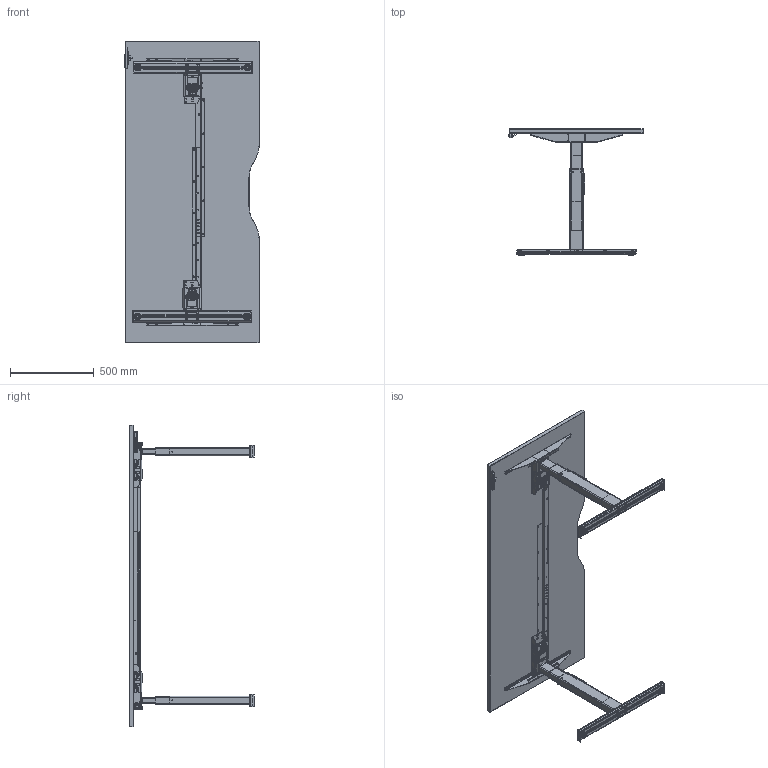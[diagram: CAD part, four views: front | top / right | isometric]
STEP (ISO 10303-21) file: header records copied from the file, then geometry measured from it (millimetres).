
FILE_DESCRIPTION(/* description */ (''),/* implementation_level */ '2;1');
FILE_NAME(/* name */ 'Metalon HAD (1800x800).step',/* time_stamp */ '2024-08-14T10:26:56+12:00',/* author */ (''),/* organization */ (''),/* preprocessor_version */ 'ST-DEVELOPER v20',/* originating_system */ 'Autodesk Translation Framework v13.14.0.145',/* authorisation */ '');
FILE_SCHEMA (('AUTOMOTIVE_DESIGN { 1 0 10303 214 3 1 1 }'));
Products named in the file (32): Black; Left Leg; dl6_with_bracket_1; Component5; Component8; Component11; Component6; Component7; feet v2; Component1; Klick Clack; Kick Clack Frame v3; 1003W2001_ASM; 1003W1010; 1003W2001-W1; 1003W2001-W2; 1003W2002_ASM; 1003W1011; 1003W2002-W1; 1003W1001; 1003W1004; 1003W1002; 1003W1003; Right Leg; dl6_with_bracket_1_1; Component5_1; Component8_1; Component6_1; Component7_1; feet v2_1; Component1_1; DPF1C_DISPLAY_BRACKET
Assembly tree (35 placements, depth 5):
  Black
    Left Leg
      dl6_with_bracket_1
        Component5
          Component8
          Component11
        Component6
        Component7
      feet v2
        Component1
    Klick Clack
      Kick Clack Frame v3
        1003W2001_ASM
          1003W1001
          1003W1010
          1003W2001-W1
          1003W2001-W2
        1003W2002_ASM
          1003W1011
          1003W2002-W1
          1003W1001
        1003W1004  x2
        1003W1002  x2
        1003W1003  x2
    Right Leg
      dl6_with_bracket_1_1
        Component5_1
          Component8_1
        Component6_1
        Component7_1
      feet v2_1
        Component1_1
    DPF1C_DISPLAY_BRACKET
Bounding box: 802.49 x 750.5 x 1800 mm (x, y, z)
Volume: 47079314.8 mm3; surface area: 5147083 mm2
Topology: 30 solids, 31 shells, 6709 faces, 17135 edges, 10661 vertices
Faces by surface type: plane 3213, cylinder 2305, bspline 594, torus 431, sphere 126, cone 40
Full cylindrical faces by diameter (mm): 0.4 x1, 4.6 x4, 5 x20, 5.3 x12, 5.5 x20, 5.7 x2, 6 x2, 6.2 x7, 6.8 x12, 7 x12, 7.7 x4, 8 x12, 10 x2, 11.5 x4, 12 x4, 13.5 x4, 20.2 x4, 22.2 x4, 29.2 x4, 31.2 x4, 40 x4
Entity records: 191770 total; most frequent: CARTESIAN_POINT 70110, ORIENTED_EDGE 25488, DIRECTION 25077, EDGE_CURVE 12744, AXIS2_PLACEMENT_3D 8643, VERTEX_POINT 8041, LINE 7791, VECTOR 7791
